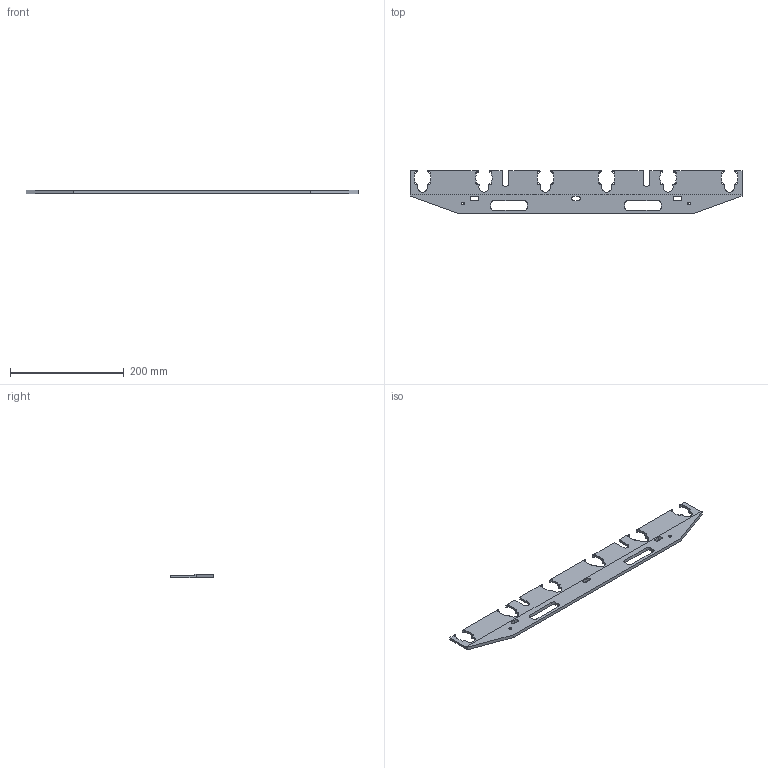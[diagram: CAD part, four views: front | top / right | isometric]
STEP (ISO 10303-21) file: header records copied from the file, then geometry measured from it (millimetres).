
FILE_DESCRIPTION(('STEP AP214'), '1');
FILE_NAME('P1.WSD5080.250.104.001 _ ﾍ瑜粱', '', ('UNSPECIFIED'), ('UNSPECIFIED'), 'C3D Converter', 'C3D Toolkit', '');
FILE_SCHEMA(('AUTOMOTIVE_DESIGN { 1 0 10303 214 3 1 1}'));
Length unit declared in the file: millimetre
Products named in the file (1): P1.WSD5080.250.104.001
Bounding box: 584 x 74.8 x 5.8 mm (x, y, z)
Volume: 156744.9 mm3; surface area: 78227.2 mm2
Topology: 1 solids, 1 shells, 148 faces, 434 edges, 288 vertices
Faces by surface type: cylinder 108, plane 36, cone 4
Full cylindrical faces by diameter (mm): 4 x2
Entity records: 5059 total; most frequent: DIRECTION 946, CARTESIAN_POINT 865, ORIENTED_EDGE 856, EDGE_CURVE 428, AXIS2_PLACEMENT_3D 369, VERTEX_POINT 288, CIRCLE 220, LINE 208
